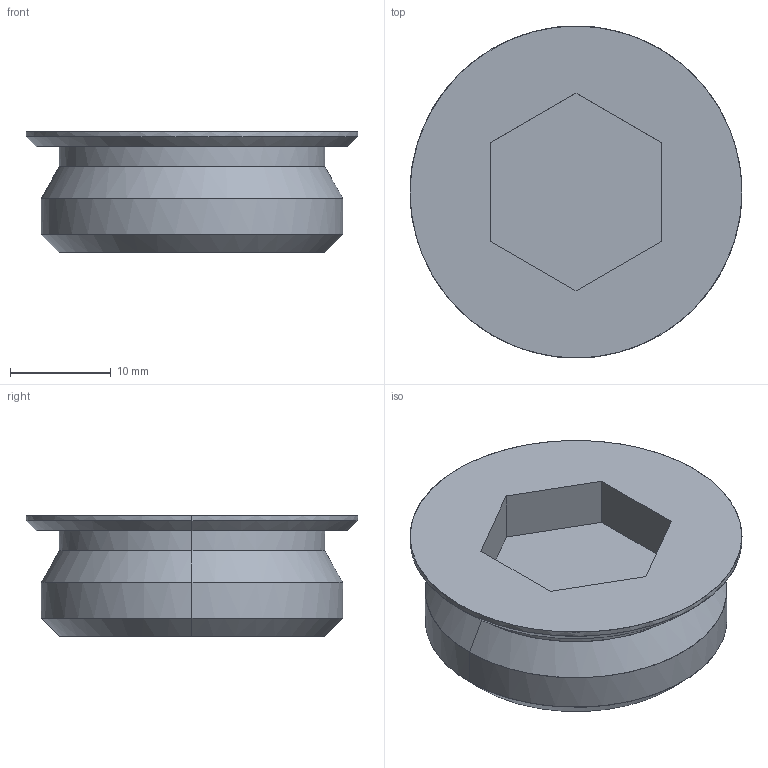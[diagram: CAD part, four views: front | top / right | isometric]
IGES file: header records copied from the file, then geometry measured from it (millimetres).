
Global section: file name: E:\UnigraphicsGraphicData\MISUMI_PRESS-PARTS\IGES\3d_mswzs30-12_00497_r00.igs; native system: NX V5.0; preprocessor: UGS NX IGES V5.0; author: MISUMI; date: 20110105.161531; units: millimetre
Bounding box: 33 x 33 x 12 mm (x, y, z)
Surface area: 3146.8 mm2 (no closed solid volume)
Topology: 0 solids, 0 shells, 22 faces, 148 edges, 148 vertices
Faces by surface type: bspline 22
